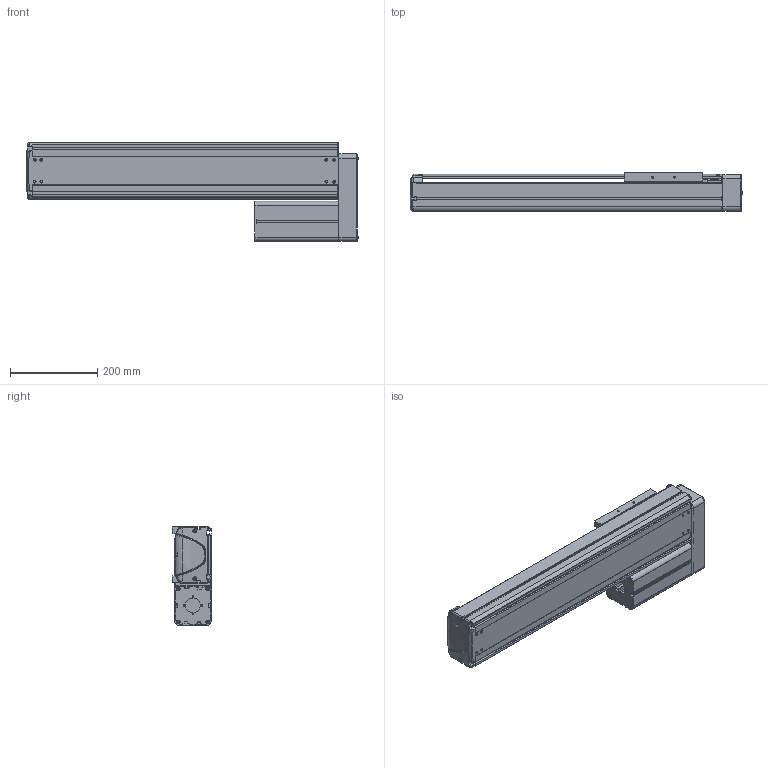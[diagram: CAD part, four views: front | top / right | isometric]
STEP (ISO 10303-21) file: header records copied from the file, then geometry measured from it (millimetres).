
FILE_DESCRIPTION((''),'2;1');
FILE_NAME('BE30E-UL-L_B-45_IGS_PRT','2017-06-17T',(' '),(''),'PRO/ENGINEER BY PARAMETRIC TECHNOLOGY CORPORATION, 2015030','PRO/ENGINEER BY PARAMETRIC TECHNOLOGY CORPORATION, 2015030','');
FILE_SCHEMA(('CONFIG_CONTROL_DESIGN'));
Products named in the file (1): BE30E-UL-L_B-45_IGS_PRT
Bounding box: 761.9 x 89.8 x 227 mm (x, y, z)
Volume: 2879118.9 mm3; surface area: 1236483.9 mm2
Topology: 2 solids, 116 shells, 2013 faces, 5423 edges, 3522 vertices
Faces by surface type: plane 1000, cylinder 821, cone 101, torus 39, bspline 28, sphere 24
Entity records: 65176 total; most frequent: CARTESIAN_POINT 13785, DIRECTION 10867, ORIENTED_EDGE 10338, EDGE_CURVE 5385, AXIS2_PLACEMENT_3D 3816, VERTEX_POINT 3522, VECTOR 3235, LINE 3235
